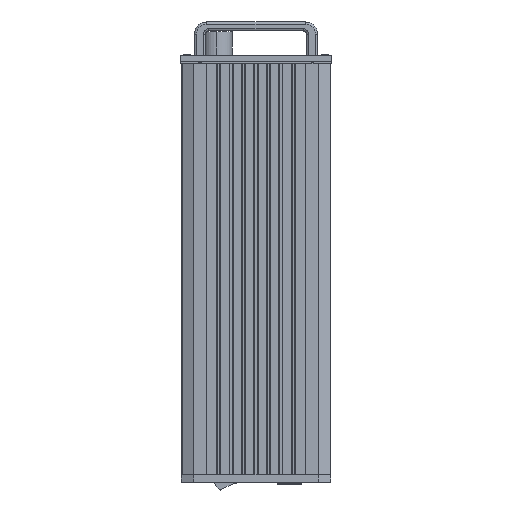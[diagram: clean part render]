
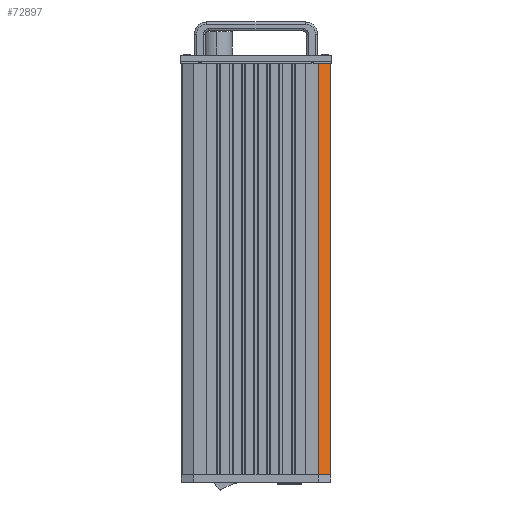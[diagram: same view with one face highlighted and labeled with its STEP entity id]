
A CAD part, left-side view. The second image highlights one B-rep face of the part: STEP entity #72897.
In plain terms, the highlighted planar face has unit normal (-0.91, -0.414, 0).
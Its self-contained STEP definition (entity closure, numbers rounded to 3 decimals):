
#14700 = ORIENTED_EDGE ( 'NONE', *, *, #57579, .F. ) ;
#16534 = LINE ( 'NONE', #25179, #114030 ) ;
#20217 = DIRECTION ( 'NONE',  ( 0., 0., -1. ) ) ;
#23178 = CARTESIAN_POINT ( 'NONE',  ( -605.242, -58.981, 153.4 ) ) ;
#23246 = DIRECTION ( 'NONE',  ( -0.414, 0.91, 0. ) ) ;
#24371 = DIRECTION ( 'NONE',  ( 0., 0., -1. ) ) ;
#24844 = LINE ( 'NONE', #65597, #94330 ) ;
#25179 = CARTESIAN_POINT ( 'NONE',  ( -600.242, -69.981, 520.4 ) ) ;
#28423 = VECTOR ( 'NONE', #87939, 1000. ) ;
#29699 = CARTESIAN_POINT ( 'NONE',  ( -600.242, -69.981, 520.4 ) ) ;
#33721 = CARTESIAN_POINT ( 'NONE',  ( -600.242, -69.981, 153.4 ) ) ;
#36235 = FACE_OUTER_BOUND ( 'NONE', #98142, .T. ) ;
#36578 = VECTOR ( 'NONE', #112586, 1000. ) ;
#39023 = VERTEX_POINT ( 'NONE', #33721 ) ;
#56791 = ORIENTED_EDGE ( 'NONE', *, *, #100983, .T. ) ;
#57579 = EDGE_CURVE ( 'NONE', #60180, #39023, #16534, .T. ) ;
#60180 = VERTEX_POINT ( 'NONE', #29699 ) ;
#65477 = ORIENTED_EDGE ( 'NONE', *, *, #120900, .T. ) ;
#65597 = CARTESIAN_POINT ( 'NONE',  ( -605.242, -58.981, 520.4 ) ) ;
#69731 = LINE ( 'NONE', #113119, #28423 ) ;
#72897 = ADVANCED_FACE ( 'NONE', ( #36235 ), #107875, .F. ) ;
#76930 = CARTESIAN_POINT ( 'NONE',  ( -605.242, -58.981, 520.4 ) ) ;
#78462 = VERTEX_POINT ( 'NONE', #76930 ) ;
#79409 = DIRECTION ( 'NONE',  ( 0.91, 0.414, 0. ) ) ;
#87186 = EDGE_CURVE ( 'NONE', #78462, #60180, #69731, .T. ) ;
#87939 = DIRECTION ( 'NONE',  ( 0.414, -0.91, 0. ) ) ;
#90192 = AXIS2_PLACEMENT_3D ( 'NONE', #99189, #79409, #23246 ) ;
#94330 = VECTOR ( 'NONE', #20217, 1000. ) ;
#98142 = EDGE_LOOP ( 'NONE', ( #56791, #14700, #101206, #65477 ) ) ;
#99189 = CARTESIAN_POINT ( 'NONE',  ( -600.242, -69.981, 520.4 ) ) ;
#100067 = LINE ( 'NONE', #103050, #36578 ) ;
#100983 = EDGE_CURVE ( 'NONE', #118346, #39023, #100067, .T. ) ;
#101206 = ORIENTED_EDGE ( 'NONE', *, *, #87186, .F. ) ;
#103050 = CARTESIAN_POINT ( 'NONE',  ( -600.242, -69.981, 153.4 ) ) ;
#107875 = PLANE ( 'NONE',  #90192 ) ;
#112586 = DIRECTION ( 'NONE',  ( 0.414, -0.91, 0. ) ) ;
#113119 = CARTESIAN_POINT ( 'NONE',  ( -600.242, -69.981, 520.4 ) ) ;
#114030 = VECTOR ( 'NONE', #24371, 1000. ) ;
#118346 = VERTEX_POINT ( 'NONE', #23178 ) ;
#120900 = EDGE_CURVE ( 'NONE', #78462, #118346, #24844, .T. ) ;
